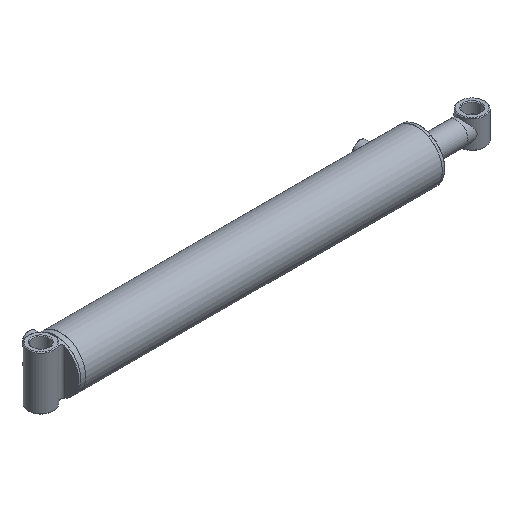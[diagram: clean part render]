
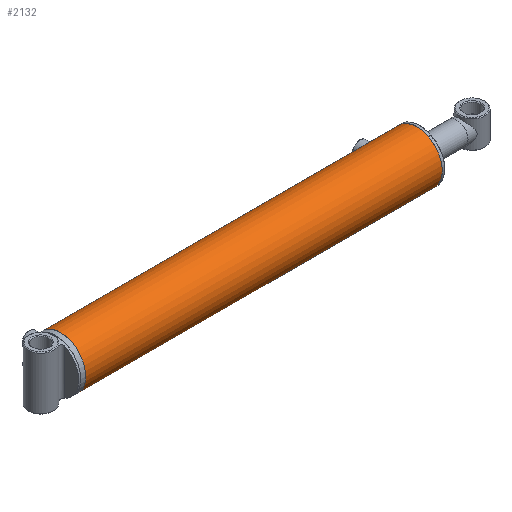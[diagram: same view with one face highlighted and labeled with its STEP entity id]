
A CAD part, isometric view. The second image highlights one B-rep face of the part: STEP entity #2132.
In plain terms, the highlighted cylindrical face has radius 50.8 mm (diameter 101.6 mm), a full revolution.
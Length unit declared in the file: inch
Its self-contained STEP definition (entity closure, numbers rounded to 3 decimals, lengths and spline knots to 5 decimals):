
#375=FACE_BOUND('',#686,.T.);
#376=FACE_BOUND('',#687,.T.);
#377=FACE_BOUND('',#688,.T.);
#500=FACE_OUTER_BOUND('',#685,.T.);
#685=EDGE_LOOP('',(#1642));
#686=EDGE_LOOP('',(#1643));
#687=EDGE_LOOP('',(#1644));
#688=EDGE_LOOP('',(#1645));
#930=CIRCLE('',#2314,2.);
#934=CIRCLE('',#2322,2.);
#1065=B_SPLINE_CURVE_WITH_KNOTS('',3,(#4910,#4911,#4912,#4913,#4914,#4915,
#4916,#4917,#4918,#4919,#4920,#4921,#4922,#4923,#4924,#4925,#4926,#4927,
#4928,#4929,#4930,#4931,#4932,#4933,#4934,#4935,#4936,#4937,#4938,#4939,
#4940,#4941,#4942,#4943),.UNSPECIFIED.,.T.,.F.,(4,2,2,2,2,2,2,2,2,2,2,2,
2,2,2,2,4),(0.,0.18847,0.37695,0.56542,0.7539,
0.94237,1.13085,1.31932,1.50779,1.69627,
1.88474,2.07322,2.26169,2.45017,2.63864,
2.82711,3.01559),.UNSPECIFIED.);
#1067=B_SPLINE_CURVE_WITH_KNOTS('',3,(#5108,#5109,#5110,#5111,#5112,#5113,
#5114,#5115,#5116,#5117,#5118,#5119,#5120,#5121,#5122,#5123,#5124,#5125,
#5126,#5127,#5128,#5129,#5130,#5131,#5132,#5133,#5134,#5135,#5136,#5137,
#5138,#5139,#5140,#5141),.UNSPECIFIED.,.T.,.F.,(4,2,2,2,2,2,2,2,2,2,2,2,
2,2,2,2,4),(0.,0.18847,0.37695,0.56542,0.7539,
0.94237,1.13085,1.31932,1.50779,1.69627,
1.88474,2.07322,2.26169,2.45017,2.63864,
2.82711,3.01559),.UNSPECIFIED.);
#1119=VERTEX_POINT('',#4909);
#1121=VERTEX_POINT('',#5107);
#1125=VERTEX_POINT('',#5151);
#1129=VERTEX_POINT('',#5163);
#1329=EDGE_CURVE('',#1119,#1119,#1065,.T.);
#1332=EDGE_CURVE('',#1121,#1121,#1067,.T.);
#1336=EDGE_CURVE('',#1125,#1125,#930,.T.);
#1340=EDGE_CURVE('',#1129,#1129,#934,.T.);
#1642=ORIENTED_EDGE('',*,*,#1340,.T.);
#1643=ORIENTED_EDGE('',*,*,#1329,.T.);
#1644=ORIENTED_EDGE('',*,*,#1332,.T.);
#1645=ORIENTED_EDGE('',*,*,#1336,.F.);
#2067=CYLINDRICAL_SURFACE('',#2324,2.);
#2132=ADVANCED_FACE('',(#500,#375,#376,#377),#2067,.T.);
#2314=AXIS2_PLACEMENT_3D('',#5152,#2663,#2664);
#2322=AXIS2_PLACEMENT_3D('',#5164,#2679,#2680);
#2324=AXIS2_PLACEMENT_3D('',#5166,#2683,#2684);
#2663=DIRECTION('center_axis',(1.,0.,0.));
#2664=DIRECTION('ref_axis',(0.,-1.,0.));
#2679=DIRECTION('center_axis',(1.,0.,0.));
#2680=DIRECTION('ref_axis',(0.,-1.,0.));
#2683=DIRECTION('center_axis',(1.,0.,0.));
#2684=DIRECTION('ref_axis',(0.,-1.,0.));
#4909=CARTESIAN_POINT('',(12.43307,1.99029,-0.19685));
#4910=CARTESIAN_POINT('Ctrl Pts',(12.43307,1.99029,-0.19685));
#4911=CARTESIAN_POINT('Ctrl Pts',(12.45781,1.99029,-0.19685));
#4912=CARTESIAN_POINT('Ctrl Pts',(12.48418,1.9908,-0.1919));
#4913=CARTESIAN_POINT('Ctrl Pts',(12.53267,1.99263,-0.17181));
#4914=CARTESIAN_POINT('Ctrl Pts',(12.5548,1.99393,-0.15666));
#4915=CARTESIAN_POINT('Ctrl Pts',(12.58973,1.99637,-0.12173));
#4916=CARTESIAN_POINT('Ctrl Pts',(12.60488,1.99767,-0.0996));
#4917=CARTESIAN_POINT('Ctrl Pts',(12.62497,1.99949,-0.05111));
#4918=CARTESIAN_POINT('Ctrl Pts',(12.62992,2.,-0.02473));
#4919=CARTESIAN_POINT('Ctrl Pts',(12.62992,2.,0.02473));
#4920=CARTESIAN_POINT('Ctrl Pts',(12.62497,1.99949,0.05111));
#4921=CARTESIAN_POINT('Ctrl Pts',(12.60488,1.99767,0.0996));
#4922=CARTESIAN_POINT('Ctrl Pts',(12.58973,1.99637,0.12173));
#4923=CARTESIAN_POINT('Ctrl Pts',(12.5548,1.99393,0.15666));
#4924=CARTESIAN_POINT('Ctrl Pts',(12.53267,1.99263,0.17181));
#4925=CARTESIAN_POINT('Ctrl Pts',(12.48418,1.9908,0.1919));
#4926=CARTESIAN_POINT('Ctrl Pts',(12.45781,1.99029,0.19685));
#4927=CARTESIAN_POINT('Ctrl Pts',(12.40834,1.99029,0.19685));
#4928=CARTESIAN_POINT('Ctrl Pts',(12.38196,1.9908,0.1919));
#4929=CARTESIAN_POINT('Ctrl Pts',(12.33347,1.99263,0.17181));
#4930=CARTESIAN_POINT('Ctrl Pts',(12.31135,1.99393,0.15666));
#4931=CARTESIAN_POINT('Ctrl Pts',(12.27641,1.99637,0.12173));
#4932=CARTESIAN_POINT('Ctrl Pts',(12.26126,1.99767,0.0996));
#4933=CARTESIAN_POINT('Ctrl Pts',(12.24117,1.99949,0.05111));
#4934=CARTESIAN_POINT('Ctrl Pts',(12.23622,2.,0.02473));
#4935=CARTESIAN_POINT('Ctrl Pts',(12.23622,2.,-0.02473));
#4936=CARTESIAN_POINT('Ctrl Pts',(12.24117,1.99949,-0.05111));
#4937=CARTESIAN_POINT('Ctrl Pts',(12.26126,1.99767,-0.0996));
#4938=CARTESIAN_POINT('Ctrl Pts',(12.27641,1.99637,-0.12173));
#4939=CARTESIAN_POINT('Ctrl Pts',(12.31135,1.99393,-0.15666));
#4940=CARTESIAN_POINT('Ctrl Pts',(12.33347,1.99263,-0.17181));
#4941=CARTESIAN_POINT('Ctrl Pts',(12.38196,1.9908,-0.1919));
#4942=CARTESIAN_POINT('Ctrl Pts',(12.40834,1.99029,-0.19685));
#4943=CARTESIAN_POINT('Ctrl Pts',(12.43307,1.99029,-0.19685));
#5107=CARTESIAN_POINT('',(-13.61417,1.99029,-0.19685));
#5108=CARTESIAN_POINT('Ctrl Pts',(-13.61417,1.99029,-0.19685));
#5109=CARTESIAN_POINT('Ctrl Pts',(-13.58944,1.99029,-0.19685));
#5110=CARTESIAN_POINT('Ctrl Pts',(-13.56307,1.9908,-0.1919));
#5111=CARTESIAN_POINT('Ctrl Pts',(-13.51457,1.99263,-0.17181));
#5112=CARTESIAN_POINT('Ctrl Pts',(-13.49245,1.99393,-0.15666));
#5113=CARTESIAN_POINT('Ctrl Pts',(-13.45751,1.99637,-0.12173));
#5114=CARTESIAN_POINT('Ctrl Pts',(-13.44236,1.99767,-0.0996));
#5115=CARTESIAN_POINT('Ctrl Pts',(-13.42227,1.99949,-0.05111));
#5116=CARTESIAN_POINT('Ctrl Pts',(-13.41732,2.,-0.02473));
#5117=CARTESIAN_POINT('Ctrl Pts',(-13.41732,2.,0.02473));
#5118=CARTESIAN_POINT('Ctrl Pts',(-13.42227,1.99949,0.05111));
#5119=CARTESIAN_POINT('Ctrl Pts',(-13.44236,1.99767,0.0996));
#5120=CARTESIAN_POINT('Ctrl Pts',(-13.45751,1.99637,0.12173));
#5121=CARTESIAN_POINT('Ctrl Pts',(-13.49245,1.99393,0.15666));
#5122=CARTESIAN_POINT('Ctrl Pts',(-13.51457,1.99263,0.17181));
#5123=CARTESIAN_POINT('Ctrl Pts',(-13.56307,1.9908,0.1919));
#5124=CARTESIAN_POINT('Ctrl Pts',(-13.58944,1.99029,0.19685));
#5125=CARTESIAN_POINT('Ctrl Pts',(-13.63891,1.99029,0.19685));
#5126=CARTESIAN_POINT('Ctrl Pts',(-13.66528,1.9908,0.1919));
#5127=CARTESIAN_POINT('Ctrl Pts',(-13.71377,1.99263,0.17181));
#5128=CARTESIAN_POINT('Ctrl Pts',(-13.7359,1.99393,0.15666));
#5129=CARTESIAN_POINT('Ctrl Pts',(-13.77084,1.99637,0.12173));
#5130=CARTESIAN_POINT('Ctrl Pts',(-13.78598,1.99767,0.0996));
#5131=CARTESIAN_POINT('Ctrl Pts',(-13.80608,1.99949,0.05111));
#5132=CARTESIAN_POINT('Ctrl Pts',(-13.81102,2.,0.02473));
#5133=CARTESIAN_POINT('Ctrl Pts',(-13.81102,2.,-0.02473));
#5134=CARTESIAN_POINT('Ctrl Pts',(-13.80608,1.99949,-0.05111));
#5135=CARTESIAN_POINT('Ctrl Pts',(-13.78598,1.99767,-0.0996));
#5136=CARTESIAN_POINT('Ctrl Pts',(-13.77084,1.99637,-0.12173));
#5137=CARTESIAN_POINT('Ctrl Pts',(-13.7359,1.99393,-0.15666));
#5138=CARTESIAN_POINT('Ctrl Pts',(-13.71377,1.99263,-0.17181));
#5139=CARTESIAN_POINT('Ctrl Pts',(-13.66528,1.9908,-0.1919));
#5140=CARTESIAN_POINT('Ctrl Pts',(-13.63891,1.99029,-0.19685));
#5141=CARTESIAN_POINT('Ctrl Pts',(-13.61417,1.99029,-0.19685));
#5151=CARTESIAN_POINT('',(14.16535,2.,0.));
#5152=CARTESIAN_POINT('Origin',(14.16535,0.,0.));
#5163=CARTESIAN_POINT('',(-13.93701,2.,0.));
#5164=CARTESIAN_POINT('Origin',(-13.93701,0.,0.));
#5166=CARTESIAN_POINT('Origin',(0.,0.,0.));
